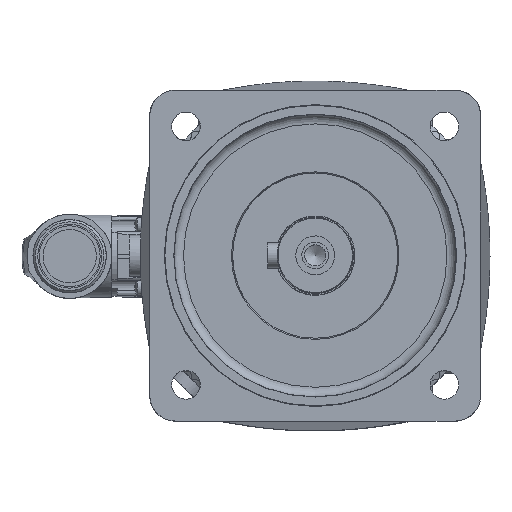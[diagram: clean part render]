
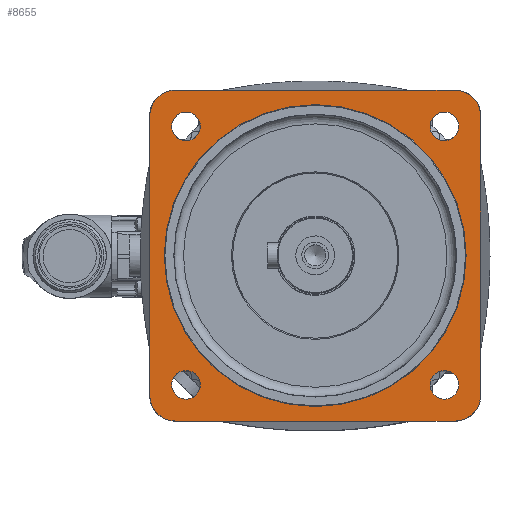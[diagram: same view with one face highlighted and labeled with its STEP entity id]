
A CAD part, top view. The second image highlights one B-rep face of the part: STEP entity #8655.
In plain terms, the highlighted planar face has unit normal (0, 0, 1).
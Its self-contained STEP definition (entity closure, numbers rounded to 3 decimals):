
#112=FACE_BOUND('',#939,.T.);
#113=FACE_BOUND('',#940,.T.);
#114=FACE_BOUND('',#941,.T.);
#115=FACE_BOUND('',#942,.T.);
#116=FACE_BOUND('',#943,.T.);
#445=FACE_OUTER_BOUND('',#938,.T.);
#938=EDGE_LOOP('',(#5685,#5686,#5687,#5688,#5689,#5690,#5691,#5692));
#939=EDGE_LOOP('',(#5693));
#940=EDGE_LOOP('',(#5694));
#941=EDGE_LOOP('',(#5695));
#942=EDGE_LOOP('',(#5696));
#943=EDGE_LOOP('',(#5697));
#1631=LINE('',#13355,#2302);
#1632=LINE('',#13359,#2303);
#1633=LINE('',#13363,#2304);
#1634=LINE('',#13367,#2305);
#2302=VECTOR('',#10454,10.);
#2303=VECTOR('',#10457,10.);
#2304=VECTOR('',#10460,10.);
#2305=VECTOR('',#10463,10.);
#2965=CIRCLE('',#9310,47.5);
#2966=CIRCLE('',#9312,8.052);
#2967=CIRCLE('',#9313,8.052);
#2968=CIRCLE('',#9314,8.052);
#2969=CIRCLE('',#9315,8.052);
#2970=CIRCLE('',#9316,4.5);
#2971=CIRCLE('',#9317,4.5);
#2972=CIRCLE('',#9318,4.5);
#2973=CIRCLE('',#9319,4.5);
#3419=VERTEX_POINT('',#13349);
#3420=VERTEX_POINT('',#13353);
#3421=VERTEX_POINT('',#13354);
#3422=VERTEX_POINT('',#13356);
#3423=VERTEX_POINT('',#13358);
#3424=VERTEX_POINT('',#13360);
#3425=VERTEX_POINT('',#13362);
#3426=VERTEX_POINT('',#13364);
#3427=VERTEX_POINT('',#13366);
#3428=VERTEX_POINT('',#13369);
#3429=VERTEX_POINT('',#13371);
#3430=VERTEX_POINT('',#13373);
#3431=VERTEX_POINT('',#13375);
#4297=EDGE_CURVE('',#3419,#3419,#2965,.T.);
#4298=EDGE_CURVE('',#3420,#3421,#1631,.T.);
#4299=EDGE_CURVE('',#3422,#3420,#2966,.T.);
#4300=EDGE_CURVE('',#3423,#3422,#1632,.T.);
#4301=EDGE_CURVE('',#3424,#3423,#2967,.T.);
#4302=EDGE_CURVE('',#3425,#3424,#1633,.T.);
#4303=EDGE_CURVE('',#3426,#3425,#2968,.T.);
#4304=EDGE_CURVE('',#3427,#3426,#1634,.T.);
#4305=EDGE_CURVE('',#3421,#3427,#2969,.T.);
#4306=EDGE_CURVE('',#3428,#3428,#2970,.T.);
#4307=EDGE_CURVE('',#3429,#3429,#2971,.T.);
#4308=EDGE_CURVE('',#3430,#3430,#2972,.T.);
#4309=EDGE_CURVE('',#3431,#3431,#2973,.T.);
#5685=ORIENTED_EDGE('',*,*,#4298,.F.);
#5686=ORIENTED_EDGE('',*,*,#4299,.F.);
#5687=ORIENTED_EDGE('',*,*,#4300,.F.);
#5688=ORIENTED_EDGE('',*,*,#4301,.F.);
#5689=ORIENTED_EDGE('',*,*,#4302,.F.);
#5690=ORIENTED_EDGE('',*,*,#4303,.F.);
#5691=ORIENTED_EDGE('',*,*,#4304,.F.);
#5692=ORIENTED_EDGE('',*,*,#4305,.F.);
#5693=ORIENTED_EDGE('',*,*,#4297,.T.);
#5694=ORIENTED_EDGE('',*,*,#4306,.T.);
#5695=ORIENTED_EDGE('',*,*,#4307,.T.);
#5696=ORIENTED_EDGE('',*,*,#4308,.T.);
#5697=ORIENTED_EDGE('',*,*,#4309,.T.);
#7883=PLANE('',#9311);
#8655=ADVANCED_FACE('',(#445,#112,#113,#114,#115,#116),#7883,.F.);
#9310=AXIS2_PLACEMENT_3D('',#13351,#10450,#10451);
#9311=AXIS2_PLACEMENT_3D('',#13352,#10452,#10453);
#9312=AXIS2_PLACEMENT_3D('',#13357,#10455,#10456);
#9313=AXIS2_PLACEMENT_3D('',#13361,#10458,#10459);
#9314=AXIS2_PLACEMENT_3D('',#13365,#10461,#10462);
#9315=AXIS2_PLACEMENT_3D('',#13368,#10464,#10465);
#9316=AXIS2_PLACEMENT_3D('',#13370,#10466,#10467);
#9317=AXIS2_PLACEMENT_3D('',#13372,#10468,#10469);
#9318=AXIS2_PLACEMENT_3D('',#13374,#10470,#10471);
#9319=AXIS2_PLACEMENT_3D('',#13376,#10472,#10473);
#10450=DIRECTION('center_axis',(0.,0.,
-1.));
#10451=DIRECTION('ref_axis',(-1.,0.,0.));
#10452=DIRECTION('center_axis',(0.,0.,
-1.));
#10453=DIRECTION('ref_axis',(-1.,0.,0.));
#10454=DIRECTION('',(1.,0.,0.));
#10455=DIRECTION('center_axis',(0.,0.,
-1.));
#10456=DIRECTION('ref_axis',(0.,1.,0.));
#10457=DIRECTION('',(0.,1.,0.));
#10458=DIRECTION('center_axis',(0.,0.,
-1.));
#10459=DIRECTION('ref_axis',(-1.,0.,0.));
#10460=DIRECTION('',(-1.,0.,0.));
#10461=DIRECTION('center_axis',(0.,0.,
-1.));
#10462=DIRECTION('ref_axis',(0.,-1.,0.));
#10463=DIRECTION('',(0.,-1.,0.));
#10464=DIRECTION('center_axis',(0.,0.,
-1.));
#10465=DIRECTION('ref_axis',(1.,0.,0.));
#10466=DIRECTION('center_axis',(0.,0.,
-1.));
#10467=DIRECTION('ref_axis',(-1.,0.,0.));
#10468=DIRECTION('center_axis',(0.,0.,
-1.));
#10469=DIRECTION('ref_axis',(-1.,0.,0.));
#10470=DIRECTION('center_axis',(0.,0.,
-1.));
#10471=DIRECTION('ref_axis',(-1.,0.,0.));
#10472=DIRECTION('center_axis',(0.,0.,
-1.));
#10473=DIRECTION('ref_axis',(-1.,0.,0.));
#13349=CARTESIAN_POINT('',(47.5,0.,0.));
#13351=CARTESIAN_POINT('Origin',(0.,0.,
0.));
#13352=CARTESIAN_POINT('Origin',(0.,0.,
0.));
#13353=CARTESIAN_POINT('',(-44.,52.052,0.));
#13354=CARTESIAN_POINT('',(44.,52.052,0.));
#13355=CARTESIAN_POINT('',(44.,52.052,0.));
#13356=CARTESIAN_POINT('',(-52.052,44.,0.));
#13357=CARTESIAN_POINT('Origin',(-44.,44.,0.));
#13358=CARTESIAN_POINT('',(-52.052,-44.,0.));
#13359=CARTESIAN_POINT('',(-52.052,44.,0.));
#13360=CARTESIAN_POINT('',(-44.,-52.052,0.));
#13361=CARTESIAN_POINT('Origin',(-44.,-44.,0.));
#13362=CARTESIAN_POINT('',(44.,-52.052,0.));
#13363=CARTESIAN_POINT('',(-44.,-52.052,0.));
#13364=CARTESIAN_POINT('',(52.052,-44.,0.));
#13365=CARTESIAN_POINT('Origin',(44.,-44.,0.));
#13366=CARTESIAN_POINT('',(52.052,44.,0.));
#13367=CARTESIAN_POINT('',(52.052,-44.,0.));
#13368=CARTESIAN_POINT('Origin',(44.,44.,0.));
#13369=CARTESIAN_POINT('',(45.159,40.659,0.));
#13370=CARTESIAN_POINT('Origin',(40.659,40.659,0.));
#13371=CARTESIAN_POINT('',(-36.159,40.659,0.));
#13372=CARTESIAN_POINT('Origin',(-40.659,40.659,0.));
#13373=CARTESIAN_POINT('',(-36.159,-40.659,0.));
#13374=CARTESIAN_POINT('Origin',(-40.659,-40.659,0.));
#13375=CARTESIAN_POINT('',(45.159,-40.659,0.));
#13376=CARTESIAN_POINT('Origin',(40.659,-40.659,0.));
